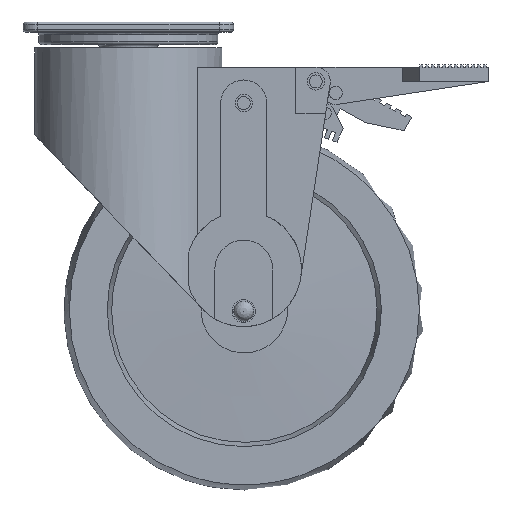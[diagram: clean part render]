
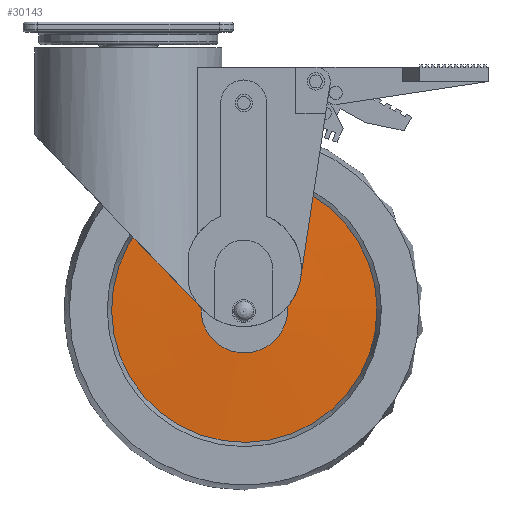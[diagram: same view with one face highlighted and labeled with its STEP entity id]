
A CAD part, front view. The second image highlights one B-rep face of the part: STEP entity #30143.
In plain terms, the highlighted conical face has half-angle 87.783 degrees and reference radius 30.5 mm.
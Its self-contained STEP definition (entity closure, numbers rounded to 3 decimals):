
#6691=CARTESIAN_POINT('',(108.913,41.432,-41.344));
#6692=VERTEX_POINT('',#6691);
#6700=CARTESIAN_POINT('',(103.752,41.432,-31.044));
#6701=VERTEX_POINT('',#6700);
#6702=CARTESIAN_POINT('',(93.95,41.432,-42.399));
#6703=DIRECTION('',(0.0,-1.0,0.0));
#6704=DIRECTION('',(1.,0.0,0.014));
#6705=AXIS2_PLACEMENT_3D('',#6702,#6703,#6704);
#6706=CIRCLE('',#6705,15.);
#6707=EDGE_CURVE('',#6692,#6701,#6706,.T.);
#6725=CARTESIAN_POINT('',(101.752,41.432,-29.587));
#6726=VERTEX_POINT('',#6725);
#6733=CARTESIAN_POINT('',(97.833,41.432,-27.91));
#6734=VERTEX_POINT('',#6733);
#6735=CARTESIAN_POINT('',(93.95,41.432,-42.399));
#6736=DIRECTION('',(0.0,-1.0,0.0));
#6737=DIRECTION('',(1.,0.0,0.014));
#6738=AXIS2_PLACEMENT_3D('',#6735,#6736,#6737);
#6739=CIRCLE('',#6738,15.);
#6740=EDGE_CURVE('',#6726,#6734,#6739,.T.);
#6742=CARTESIAN_POINT('',(89.661,41.432,-28.025));
#6743=VERTEX_POINT('',#6742);
#6751=CARTESIAN_POINT('',(85.752,41.432,-29.837));
#6752=VERTEX_POINT('',#6751);
#6753=CARTESIAN_POINT('',(93.95,41.432,-42.399));
#6754=DIRECTION('',(0.0,-1.0,0.0));
#6755=DIRECTION('',(1.,0.0,0.014));
#6756=AXIS2_PLACEMENT_3D('',#6753,#6754,#6755);
#6757=CIRCLE('',#6756,15.);
#6758=EDGE_CURVE('',#6743,#6752,#6757,.T.);
#6776=CARTESIAN_POINT('',(83.752,41.432,-31.399));
#6777=VERTEX_POINT('',#6776);
#6784=CARTESIAN_POINT('',(78.963,41.432,-41.775));
#6785=VERTEX_POINT('',#6784);
#6786=CARTESIAN_POINT('',(93.95,41.432,-42.399));
#6787=DIRECTION('',(0.0,-1.0,0.0));
#6788=DIRECTION('',(1.,0.0,0.014));
#6789=AXIS2_PLACEMENT_3D('',#6786,#6787,#6788);
#6790=CIRCLE('',#6789,15.);
#6791=EDGE_CURVE('',#6777,#6785,#6790,.T.);
#29818=CARTESIAN_POINT('',(97.73,41.432,-27.883));
#29819=VERTEX_POINT('',#29818);
#29820=CARTESIAN_POINT('',(93.95,41.432,-42.399));
#29821=DIRECTION('',(0.0,-1.0,0.0));
#29822=DIRECTION('',(1.,0.0,0.014));
#29823=AXIS2_PLACEMENT_3D('',#29820,#29821,#29822);
#29824=CIRCLE('',#29823,15.);
#29825=EDGE_CURVE('',#6734,#29819,#29824,.T.);
#30031=CARTESIAN_POINT('',(93.95,41.432,-42.399));
#30032=DIRECTION('',(0.0,-1.0,0.0));
#30033=DIRECTION('',(1.,0.0,0.014));
#30034=AXIS2_PLACEMENT_3D('',#30031,#30032,#30033);
#30035=CIRCLE('',#30034,15.);
#30036=EDGE_CURVE('',#6752,#6777,#30035,.T.);
#30041=CARTESIAN_POINT('',(93.95,41.432,-42.399));
#30042=DIRECTION('',(0.0,-1.0,0.0));
#30043=DIRECTION('',(1.,0.0,0.014));
#30044=AXIS2_PLACEMENT_3D('',#30041,#30042,#30043);
#30045=CIRCLE('',#30044,15.);
#30046=EDGE_CURVE('',#6785,#6692,#30045,.T.);
#30050=CARTESIAN_POINT('',(93.95,41.432,-42.399));
#30051=DIRECTION('',(0.0,-1.0,0.0));
#30052=DIRECTION('',(1.,0.0,0.014));
#30053=AXIS2_PLACEMENT_3D('',#30050,#30051,#30052);
#30054=CIRCLE('',#30053,15.);
#30055=EDGE_CURVE('',#6701,#6726,#30054,.T.);
#30060=CARTESIAN_POINT('',(89.763,41.432,-27.995));
#30061=VERTEX_POINT('',#30060);
#30069=CARTESIAN_POINT('',(93.95,41.432,-42.399));
#30070=DIRECTION('',(0.0,-1.0,0.0));
#30071=DIRECTION('',(1.,0.0,0.014));
#30072=AXIS2_PLACEMENT_3D('',#30069,#30070,#30071);
#30073=CIRCLE('',#30072,15.);
#30074=EDGE_CURVE('',#30061,#6743,#30073,.T.);
#30082=CARTESIAN_POINT('',(93.95,42.032,-42.399));
#30083=DIRECTION('',(0.0,1.0,0.0));
#30084=DIRECTION('',(1.,0.0,0.014));
#30085=AXIS2_PLACEMENT_3D('',#30082,#30083,#30084);
#30086=CONICAL_SURFACE('',#30085,30.5,87.783);
#30087=CARTESIAN_POINT('',(139.945,42.632,-41.752));
#30088=VERTEX_POINT('',#30087);
#30089=CARTESIAN_POINT('',(93.95,42.632,-42.399));
#30090=DIRECTION('',(0.0,-1.0,0.0));
#30091=DIRECTION('',(1.,0.0,0.014));
#30092=AXIS2_PLACEMENT_3D('',#30089,#30090,#30091);
#30093=CIRCLE('',#30092,46.);
#30094=EDGE_CURVE('',#30088,#30088,#30093,.T.);
#30095=ORIENTED_EDGE('',*,*,#30094,.T.);
#30096=EDGE_LOOP('',(#30095));
#30097=FACE_OUTER_BOUND('',#30096,.T.);
#30098=CARTESIAN_POINT('',(89.763,41.432,-27.995));
#30099=CARTESIAN_POINT('',(89.777,41.439,-27.81));
#30100=CARTESIAN_POINT('',(89.804,41.445,-27.625));
#30101=CARTESIAN_POINT('',(89.844,41.451,-27.444));
#30102=CARTESIAN_POINT('',(89.923,41.464,-27.086));
#30103=CARTESIAN_POINT('',(90.051,41.476,-26.739));
#30104=CARTESIAN_POINT('',(90.22,41.486,-26.421));
#30105=CARTESIAN_POINT('',(90.39,41.497,-26.103));
#30106=CARTESIAN_POINT('',(90.594,41.506,-25.818));
#30107=CARTESIAN_POINT('',(90.841,41.514,-25.556));
#30108=CARTESIAN_POINT('',(91.215,41.527,-25.159));
#30109=CARTESIAN_POINT('',(91.684,41.537,-24.831));
#30110=CARTESIAN_POINT('',(92.197,41.543,-24.614));
#30111=CARTESIAN_POINT('',(92.531,41.547,-24.473));
#30112=CARTESIAN_POINT('',(92.884,41.55,-24.379));
#30113=CARTESIAN_POINT('',(93.236,41.551,-24.333));
#30114=CARTESIAN_POINT('',(93.56,41.552,-24.291));
#30115=CARTESIAN_POINT('',(93.879,41.552,-24.289));
#30116=CARTESIAN_POINT('',(94.204,41.551,-24.326));
#30117=CARTESIAN_POINT('',(94.741,41.549,-24.387));
#30118=CARTESIAN_POINT('',(95.28,41.543,-24.563));
#30119=CARTESIAN_POINT('',(95.758,41.534,-24.84));
#30120=CARTESIAN_POINT('',(96.187,41.527,-25.089));
#30121=CARTESIAN_POINT('',(96.567,41.516,-25.419));
#30122=CARTESIAN_POINT('',(96.866,41.504,-25.79));
#30123=CARTESIAN_POINT('',(97.039,41.497,-26.004));
#30124=CARTESIAN_POINT('',(97.19,41.489,-26.237));
#30125=CARTESIAN_POINT('',(97.318,41.481,-26.488));
#30126=CARTESIAN_POINT('',(97.536,41.466,-26.918));
#30127=CARTESIAN_POINT('',(97.679,41.449,-27.397));
#30128=CARTESIAN_POINT('',(97.73,41.432,-27.883));
#30129=B_SPLINE_CURVE_WITH_KNOTS('',3,(#30098,#30099,#30100,#30101,#30102,#30103,#30104,#30105,#30106,#30107,#30108,#30109,#30110,#30111,#30112,#30113,#30114,#30115,#30116,#30117,#30118,#30119,#30120,#30121,#30122,#30123,#30124,#30125,#30126,#30127,#30128),.UNSPECIFIED.,.F.,.U.,(4,3,3,3,3,3,3,3,3,3,4),(1.124,1.178,1.283,1.388,1.548,1.652,1.748,1.906,2.048,2.13,2.271),.UNSPECIFIED.);
#30130=EDGE_CURVE('',#30061,#29819,#30129,.T.);
#30131=ORIENTED_EDGE('',*,*,#30130,.T.);
#30132=ORIENTED_EDGE('',*,*,#29825,.F.);
#30133=ORIENTED_EDGE('',*,*,#6740,.F.);
#30134=ORIENTED_EDGE('',*,*,#30055,.F.);
#30135=ORIENTED_EDGE('',*,*,#6707,.F.);
#30136=ORIENTED_EDGE('',*,*,#30046,.F.);
#30137=ORIENTED_EDGE('',*,*,#6791,.F.);
#30138=ORIENTED_EDGE('',*,*,#30036,.F.);
#30139=ORIENTED_EDGE('',*,*,#6758,.F.);
#30140=ORIENTED_EDGE('',*,*,#30074,.F.);
#30141=EDGE_LOOP('',(#30131,#30132,#30133,#30134,#30135,#30136,#30137,#30138,#30139,#30140));
#30142=FACE_BOUND('',#30141,.T.);
#30143=ADVANCED_FACE('',(#30097,#30142),#30086,.T.);
